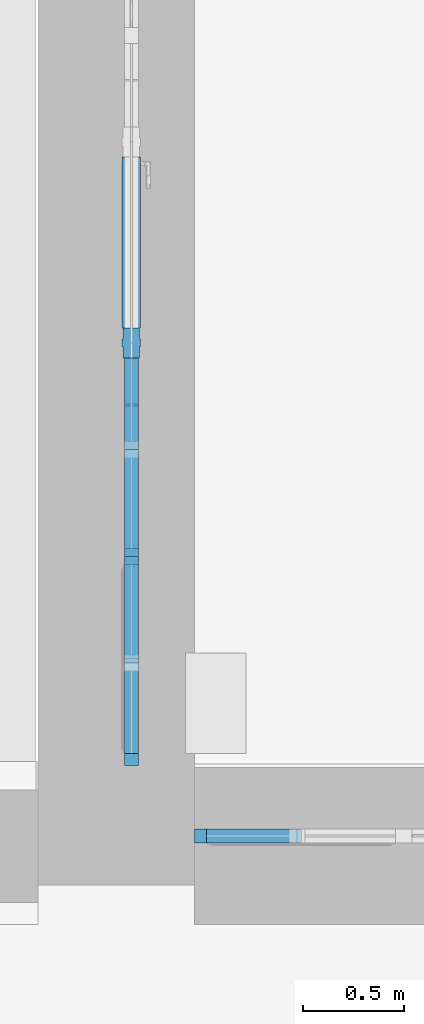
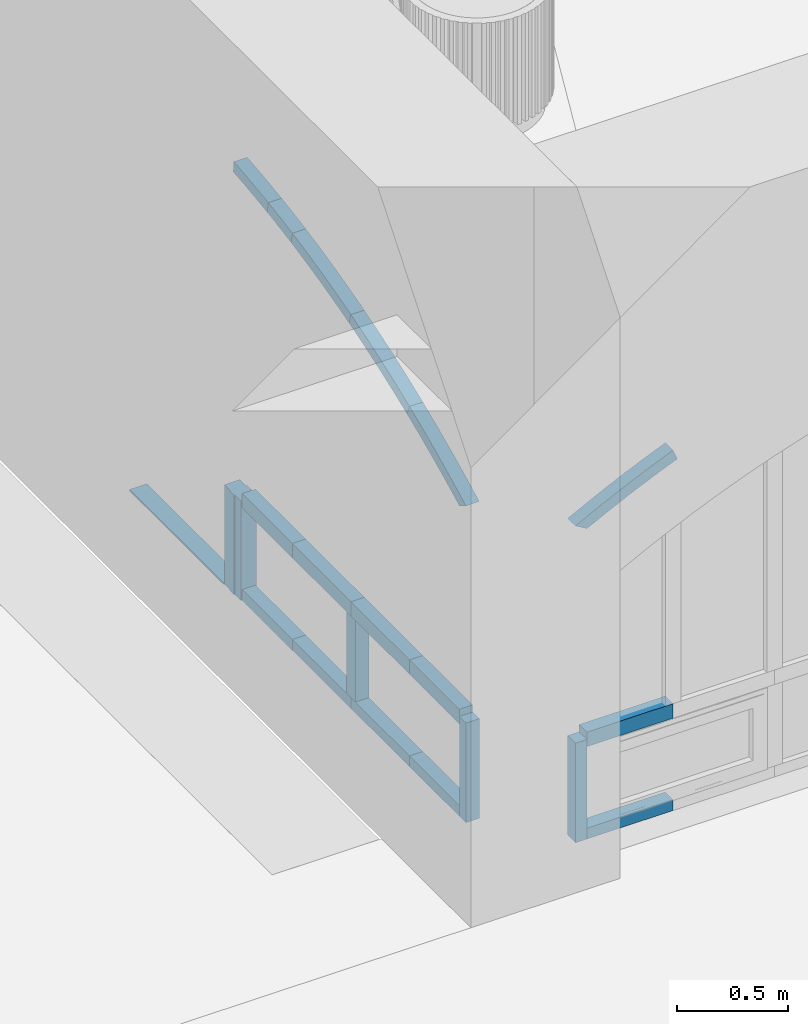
# One storey, part 16 of 88: 21 members, 2 elements without a shape of their own.
"""IFC2X3 building model written with IfcOpenShell, lengths in millimetres."""

from ifc_helpers import new_model, entity, si_unit, converted_unit, derived_unit, direction, frame, frame_2d, origin, place, context, subcontext, project, spatial, polyline, circle_curve, parameter, trimmed, segment, composite_curve, rectangle, outline, extrude, source, transform, mapped, material, type_object, type_shapes, element, aggregate, save


model = new_model("IFC2X3")

# Units and contexts
model_context = context("Model", 3, precision=0.01, world=origin(), true_north=direction((6.123031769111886e-17, 1.0)))
body_context = subcontext(model_context, "Body", "Model", "MODEL_VIEW")
ifc_project = project(units=[si_unit("LENGTHUNIT", "METRE", prefix="MILLI"), si_unit("AREAUNIT", "SQUARE_METRE"), si_unit("VOLUMEUNIT", "CUBIC_METRE"), converted_unit("PLANEANGLEUNIT", "DEGREE", entity("IfcPlaneAngleMeasure", 0.017453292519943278), si_unit("PLANEANGLEUNIT", "RADIAN"), dimensions=[0, 0, 0, 0, 0, 0, 0]), si_unit("MASSUNIT", "GRAM", prefix="KILO"), derived_unit("MASSDENSITYUNIT", [(si_unit("MASSUNIT", "GRAM", prefix="KILO"), 1), (si_unit("LENGTHUNIT", "METRE"), -3)]), derived_unit("IONCONCENTRATIONUNIT", [(si_unit("MASSUNIT", "GRAM", prefix="KILO"), 1), (si_unit("LENGTHUNIT", "METRE"), -3)]), derived_unit("MOMENTOFINERTIAUNIT", [(si_unit("LENGTHUNIT", "METRE"), 4)]), si_unit("TIMEUNIT", "SECOND"), si_unit("FREQUENCYUNIT", "HERTZ"), si_unit("THERMODYNAMICTEMPERATUREUNIT", "DEGREE_CELSIUS"), derived_unit("THERMALTRANSMITTANCEUNIT", [(si_unit("MASSUNIT", "GRAM", prefix="KILO"), 1), (si_unit("THERMODYNAMICTEMPERATUREUNIT", "KELVIN"), -1), (si_unit("TIMEUNIT", "SECOND"), -3)]), derived_unit("THERMALCONDUCTANCEUNIT", [(si_unit("MASSUNIT", "GRAM", prefix="KILO"), 1), (si_unit("THERMODYNAMICTEMPERATUREUNIT", "KELVIN"), -1), (si_unit("TIMEUNIT", "SECOND"), -3), (si_unit("LENGTHUNIT", "METRE"), 1)]), derived_unit("VOLUMETRICFLOWRATEUNIT", [(si_unit("LENGTHUNIT", "METRE", prefix="DECI"), 3), (si_unit("TIMEUNIT", "SECOND"), -1)]), derived_unit("MASSFLOWRATEUNIT", [(si_unit("MASSUNIT", "GRAM", prefix="KILO"), 1), (si_unit("TIMEUNIT", "SECOND"), -1)]), derived_unit("ROTATIONALFREQUENCYUNIT", [(si_unit("TIMEUNIT", "SECOND"), -1)]), si_unit("ELECTRICCURRENTUNIT", "AMPERE"), si_unit("ELECTRICVOLTAGEUNIT", "VOLT"), si_unit("POWERUNIT", "WATT"), si_unit("FORCEUNIT", "NEWTON", prefix="KILO"), si_unit("ILLUMINANCEUNIT", "LUX"), si_unit("LUMINOUSFLUXUNIT", "LUMEN"), si_unit("LUMINOUSINTENSITYUNIT", "CANDELA"), si_unit("ENERGYUNIT", "JOULE"), derived_unit("USERDEFINED", [(si_unit("MASSUNIT", "GRAM", prefix="KILO"), -1), (si_unit("LENGTHUNIT", "METRE"), -2), (si_unit("TIMEUNIT", "SECOND"), 3), (si_unit("LUMINOUSFLUXUNIT", "LUMEN"), 1)]), derived_unit("USERDEFINED", [(si_unit("MASSUNIT", "GRAM", prefix="KILO"), 1), (si_unit("TIMEUNIT", "SECOND"), -3), (si_unit("LENGTHUNIT", "METRE"), 3), (si_unit("ELECTRICCURRENTUNIT", "AMPERE"), -2)]), derived_unit("SOUNDPOWERUNIT", [(si_unit("MASSUNIT", "GRAM", prefix="KILO"), 1), (si_unit("TIMEUNIT", "SECOND"), -3), (si_unit("LENGTHUNIT", "METRE"), 2)]), derived_unit("SOUNDPRESSUREUNIT", [(si_unit("MASSUNIT", "GRAM", prefix="KILO"), 1), (si_unit("LENGTHUNIT", "METRE"), -1), (si_unit("TIMEUNIT", "SECOND"), -2)]), derived_unit("LINEARVELOCITYUNIT", [(si_unit("LENGTHUNIT", "METRE"), 1), (si_unit("TIMEUNIT", "SECOND"), -1)]), si_unit("PRESSUREUNIT", "PASCAL"), derived_unit("USERDEFINED", [(si_unit("MASSUNIT", "GRAM", prefix="KILO"), 1), (si_unit("LENGTHUNIT", "METRE"), -2), (si_unit("TIMEUNIT", "SECOND"), -2)]), derived_unit("LINEARFORCEUNIT", [(si_unit("MASSUNIT", "GRAM", prefix="KILO"), 1), (si_unit("TIMEUNIT", "SECOND"), -2)]), derived_unit("PLANARFORCEUNIT", [(si_unit("MASSUNIT", "GRAM", prefix="KILO"), 1), (si_unit("LENGTHUNIT", "METRE"), -1), (si_unit("TIMEUNIT", "SECOND"), -2)]), derived_unit("SPECIFICHEATCAPACITYUNIT", [(si_unit("THERMODYNAMICTEMPERATUREUNIT", "KELVIN"), -1), (si_unit("LENGTHUNIT", "METRE"), 2), (si_unit("TIMEUNIT", "SECOND"), -2)]), derived_unit("HEATFLUXDENSITYUNIT", [(si_unit("MASSUNIT", "GRAM", prefix="KILO"), 1), (si_unit("TIMEUNIT", "SECOND"), -3)]), derived_unit("HEATINGVALUEUNIT", [(si_unit("LENGTHUNIT", "METRE"), 2), (si_unit("TIMEUNIT", "SECOND"), -2)]), derived_unit("VAPORPERMEABILITYUNIT", [(si_unit("LENGTHUNIT", "METRE"), -1), (si_unit("TIMEUNIT", "SECOND"), 1)]), derived_unit("DYNAMICVISCOSITYUNIT", [(si_unit("MASSUNIT", "GRAM", prefix="KILO"), 1), (si_unit("TIMEUNIT", "SECOND"), -1), (si_unit("LENGTHUNIT", "METRE"), -1)]), derived_unit("THERMALEXPANSIONCOEFFICIENTUNIT", [(si_unit("THERMODYNAMICTEMPERATUREUNIT", "KELVIN"), -1)]), derived_unit("MODULUSOFELASTICITYUNIT", [(si_unit("MASSUNIT", "GRAM", prefix="KILO"), 1), (si_unit("LENGTHUNIT", "METRE"), -1), (si_unit("TIMEUNIT", "SECOND"), -2)]), derived_unit("ISOTHERMALMOISTURECAPACITYUNIT", [(si_unit("MASSUNIT", "GRAM", prefix="KILO"), -1), (si_unit("LENGTHUNIT", "METRE"), 3)]), derived_unit("MOISTUREDIFFUSIVITYUNIT", [(si_unit("TIMEUNIT", "SECOND"), -1), (si_unit("LENGTHUNIT", "METRE"), 2)]), derived_unit("MASSPERLENGTHUNIT", [(si_unit("MASSUNIT", "GRAM", prefix="KILO"), 1), (si_unit("LENGTHUNIT", "METRE"), -1)]), derived_unit("THERMALRESISTANCEUNIT", [(si_unit("MASSUNIT", "GRAM", prefix="KILO"), -1), (si_unit("TIMEUNIT", "SECOND"), 3), (si_unit("THERMODYNAMICTEMPERATUREUNIT", "KELVIN"), 1)]), derived_unit("ACCELERATIONUNIT", [(si_unit("LENGTHUNIT", "METRE"), 1), (si_unit("TIMEUNIT", "SECOND"), -2)]), derived_unit("ANGULARVELOCITYUNIT", [(si_unit("TIMEUNIT", "SECOND"), -1), (si_unit("PLANEANGLEUNIT", "RADIAN"), 1)]), derived_unit("LINEARSTIFFNESSUNIT", [(si_unit("MASSUNIT", "GRAM", prefix="KILO"), 1), (si_unit("TIMEUNIT", "SECOND"), -2)]), derived_unit("WARPINGCONSTANTUNIT", [(si_unit("LENGTHUNIT", "METRE"), 6)]), derived_unit("LINEARMOMENTUNIT", [(si_unit("MASSUNIT", "GRAM", prefix="KILO"), 1), (si_unit("LENGTHUNIT", "METRE"), 1), (si_unit("TIMEUNIT", "SECOND"), -2)]), derived_unit("TORQUEUNIT", [(si_unit("MASSUNIT", "GRAM", prefix="KILO"), 1), (si_unit("LENGTHUNIT", "METRE"), 2), (si_unit("TIMEUNIT", "SECOND"), -2)])], contexts=[model_context])

# Site, building, storey
site_placement = place(None, origin())
site = spatial("IfcSite", under=ifc_project, at=site_placement, Name="Default", CompositionType="ELEMENT")
building_placement = place(site_placement, origin())
building = spatial("IfcBuilding", under=site, at=building_placement, Name="Eesti Rahvusraamatukogu hoone renoveerimise projekteerimistööd", CompositionType="ELEMENT")
storey_placement = place(building_placement, origin())
storey = spatial("IfcBuildingStorey", under=building, at=storey_placement, Name="1. korrus", CompositionType="ELEMENT", Elevation=0.0)

# Curtain wall, members
curtain_wall_type = type_object("IfcCurtainWallType", Name="Curtain Wall:Ak-05", PredefinedType="NOTDEFINED")
curtain_wall_1_placement = place(storey_placement, origin())
curtain_wall_1 = element("IfcCurtainWall", 1, at=curtain_wall_1_placement, inside=storey, type_object=curtain_wall_type, Name="Curtain Wall:Ak-05", ObjectType="Curtain Wall:Ak-05")
ifc_material_1 = material(Name="LUMION_dark steel window frames")
member_type_1 = type_object("IfcMemberType", Name="Rectangular Mullion:NEW 60x70mm", PredefinedType="MULLION", material=ifc_material_1)
shared_shape_1 = source(origin(), body_context, "Body", "SweptSolid", [
    extrude(outline(composite_curve([segment(polyline([(-44.19959331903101, -278.92780712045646), (15.800406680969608, -278.9278071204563)]), True, "CONTINUOUS"), segment(trimmed(circle_curve(frame_2d((5479.080973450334, -278.9278071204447), x_axis=(-0.9948301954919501, 0.10155236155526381)), 5463.280566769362), [parameter(3.5622212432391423e-13)], [parameter(5.828569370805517)], True, "PARAMETER"), False, "CONTINUOUS"), segment(polyline([(44.04449918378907, 275.8812362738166), (-15.645312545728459, 281.97437796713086)]), True, "CONTINUOUS"), segment(trimmed(circle_curve(frame_2d((5479.080973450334, -278.9278071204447), x_axis=(-0.9948301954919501, 0.10155236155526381)), 5523.280566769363), [parameter(3.5622212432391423e-13)], [parameter(5.828569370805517)], True, "PARAMETER"), True, "CONTINUOUS")], self_intersect=False)), frame((-44.19959331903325, -35.0, -278.9278071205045), z_axis=(0.0, 1.0, 0.0), x_axis=(-0.9948301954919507, 0.0, 0.10155236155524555)), (0.0, 0.0, 1.0), 69.99999999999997),
])
type_shapes(member_type_1, [shared_shape_1])
member_1_placement = place(curtain_wall_1_placement, frame((-42905.0, 1300.0, 1939.3047106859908), z_axis=(0.0, -0.9256428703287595, -0.37839830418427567), x_axis=(0.0, -0.37839830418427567, 0.9256428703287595)))
member_1 = element("IfcMember", 2, at=member_1_placement, type_object=member_type_1, material=ifc_material_1, Name="Rectangular Mullion:NEW 60x70mm", ObjectType="Rectangular Mullion:NEW 60x70mm", context=body_context, shape_type="MappedRepresentation", body=[
    mapped(shared_shape_1, transform((0.0, 0.0, 0.0), scale=1.0)),
])
member_type_2 = type_object("IfcMemberType", Name="Rectangular Mullion:NEW 60x70mm", PredefinedType="MULLION", material=ifc_material_1)
shared_shape_2 = source(origin(), body_context, "Body", "SweptSolid", [
    extrude(outline(composite_curve([segment(polyline([(-43.38278695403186, -270.80676601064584), (16.61721304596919, -270.80676601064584)]), True, "CONTINUOUS"), segment(trimmed(circle_curve(frame_2d((5479.897779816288, -270.80676601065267), x_axis=(-0.9951275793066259, 0.09859564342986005)), 5463.280566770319), [parameter(3.5622212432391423e-13)], [parameter(5.658307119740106)], True, "PARAMETER"), False, "CONTINUOUS"), segment(polyline([(43.23661433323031, 267.8488967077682), (-16.471040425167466, 273.7646353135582)]), True, "CONTINUOUS"), segment(trimmed(circle_curve(frame_2d((5479.897779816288, -270.80676601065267), x_axis=(-0.9951275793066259, 0.09859564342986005)), 5523.280566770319), [parameter(3.5622212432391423e-13)], [parameter(5.658307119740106)], True, "PARAMETER"), True, "CONTINUOUS")], self_intersect=False)), frame((-43.382786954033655, -35.0, -270.8067660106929), z_axis=(0.0, 1.0, 0.0), x_axis=(-0.9951275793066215, 0.0, 0.09859564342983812)), (0.0, 0.0, 1.0), 69.99999999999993),
])
type_shapes(member_type_2, [shared_shape_2])
member_2_placement = place(curtain_wall_1_placement, frame((-42905.0, 1830.0, 2125.1180799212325), z_axis=(0.0, -0.9592847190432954, -0.2824408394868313), x_axis=(0.0, -0.2824408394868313, 0.9592847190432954)))
member_2 = element("IfcMember", 3, at=member_2_placement, type_object=member_type_2, material=ifc_material_1, Name="Rectangular Mullion:NEW 60x70mm", ObjectType="Rectangular Mullion:NEW 60x70mm", context=body_context, shape_type="MappedRepresentation", body=[
    mapped(shared_shape_2, transform((0.0, 0.0, 0.0), scale=1.0)),
])
member_type_3 = type_object("IfcMemberType", Name="Rectangular Mullion:NEW 60x70mm", PredefinedType="MULLION", material=ifc_material_1)
shared_shape_3 = source(origin(), body_context, "Body", "SweptSolid", [
    extrude(outline(composite_curve([segment(polyline([(-32.20246871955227, -109.97239538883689), (27.79753128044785, -109.97239538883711)]), True, "CONTINUOUS"), segment(trimmed(circle_curve(frame_2d((5491.078098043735, -109.97239538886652), x_axis=(-0.9991981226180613, 0.040038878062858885)), 5463.280566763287), [parameter(3.5622212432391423e-13)], [parameter(2.2946721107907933)], True, "PARAMETER"), False, "CONTINUOUS"), segment(polyline([(32.17841239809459, 108.77122904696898), (-27.7734749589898, 111.17356173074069)]), True, "CONTINUOUS"), segment(trimmed(circle_curve(frame_2d((5491.078098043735, -109.97239538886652), x_axis=(-0.9991981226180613, 0.040038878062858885)), 5523.280566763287), [parameter(3.5622212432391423e-13)], [parameter(2.2946721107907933)], True, "PARAMETER"), True, "CONTINUOUS")], self_intersect=False)), frame((-32.202468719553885, -35.0, -109.9723953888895), z_axis=(0.0, 1.0, 0.0), x_axis=(-0.9991981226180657, 0.0, 0.04003887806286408)), (0.0, 0.0, 1.0), 69.99999999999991),
])
type_shapes(member_type_3, [shared_shape_3])
member_3_placement = place(curtain_wall_1_placement, frame((-42905.0, 2360.0, 2253.111256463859), z_axis=(0.0, -0.9824581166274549, -0.18648337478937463), x_axis=(0.0, -0.18648337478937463, 0.9824581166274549)))
member_3 = element("IfcMember", 4, at=member_3_placement, type_object=member_type_3, material=ifc_material_1, Name="Rectangular Mullion:NEW 60x70mm", ObjectType="Rectangular Mullion:NEW 60x70mm", context=body_context, shape_type="MappedRepresentation", body=[
    mapped(shared_shape_3, transform((0.0, 0.0, 0.0), scale=1.0)),
])
member_type_4 = type_object("IfcMemberType", Name="Rectangular Mullion:NEW 60x70mm", PredefinedType="MULLION", material=ifc_material_1)
shared_shape_4 = source(origin(), body_context, "Body", "SweptSolid", [
    extrude(outline(composite_curve([segment(polyline([(-43.402905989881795, -270.8580815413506), (16.59709401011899, -270.85808154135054)]), True, "CONTINUOUS"), segment(trimmed(circle_curve(frame_2d((5479.877660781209, -270.8580815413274), x_axis=(-0.9947965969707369, 0.10188096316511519)), 5463.280566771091), [parameter(0.37822812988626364)], [parameter(5.847495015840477)], True, "PARAMETER"), False, "CONTINUOUS"), segment(polyline([(41.46886313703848, 249.85710065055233), (-14.66305115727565, 291.85906243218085)]), True, "CONTINUOUS"), segment(trimmed(circle_curve(frame_2d((5479.877660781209, -270.8580815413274), x_axis=(-0.9947965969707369, 0.10188096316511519)), 5523.280566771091), [parameter(3.5622212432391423e-13)], [parameter(5.847495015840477)], True, "PARAMETER"), True, "CONTINUOUS")], self_intersect=False)), frame((-44.32163578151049, -35.0, -288.84651632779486), z_axis=(0.0, 1.0, 0.0), x_axis=(-0.9947965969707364, 0.0, 0.10188096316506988)), (0.0, 0.0, 1.0), 69.99999999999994),
])
type_shapes(member_type_4, [shared_shape_4])
member_4_placement = place(curtain_wall_1_placement, frame((-42905.0, 790.0, 1699.7706559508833), z_axis=(0.0, -0.8822747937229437, -0.4707347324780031), x_axis=(0.0, -0.4707347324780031, 0.8822747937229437)))
member_4 = element("IfcMember", 5, at=member_4_placement, type_object=member_type_4, material=ifc_material_1, Name="Rectangular Mullion:NEW 60x70mm", ObjectType="Rectangular Mullion:NEW 60x70mm", context=body_context, shape_type="MappedRepresentation", body=[
    mapped(shared_shape_4, transform((0.0, 0.0, 0.0), scale=1.0)),
])
member_type_5 = type_object("IfcMemberType", Name="Rectangular Mullion:NEW 150x90mm", PredefinedType="MULLION", material=ifc_material_1)
shared_shape_5 = source(origin(), body_context, "Body", "SweptSolid", [
    extrude(outline(polyline([(40.0, -20.0), (45.0, -20.0), (45.0, 20.0), (40.0, 20.0), (40.0, 75.0), (-40.0, 75.0), (-40.0, 20.0), (-45.0, 20.0), (-45.0, -20.0), (-40.0, -20.0), (-40.0, -75.0), (40.0, -75.0), (40.0, -20.0)])), frame((0.0, 0.0, -550.0), z_axis=(0.0, 0.0, 1.0), x_axis=(0.0, -1.0, 0.0)), (0.0, 0.0, 1.0), 550.0000000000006),
])
type_shapes(member_type_5, [shared_shape_5])
member_5_placement = place(curtain_wall_1_placement, frame((-42905.0, 2890.0, -50.0), z_axis=(0.0, 0.0, -1.0), x_axis=(0.0, -1.0, 0.0)))
member_5 = element("IfcMember", 6, at=member_5_placement, type_object=member_type_5, material=ifc_material_1, Name="Rectangular Mullion:NEW 150x90mm", ObjectType="Rectangular Mullion:NEW 150x90mm", context=body_context, shape_type="MappedRepresentation", body=[
    mapped(shared_shape_5, transform((0.0, 0.0, 0.0), scale=1.0)),
])
member_type_6 = type_object("IfcMemberType", Name="Rectangular Mullion:NEW 80x70mm", PredefinedType="MULLION", material=ifc_material_1)
shared_shape_6 = source(origin(), body_context, "Body", "SweptSolid", [
    extrude(rectangle(XDim=80.0, YDim=70.0, at=frame_2d((0.0, -3.552713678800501e-15), x_axis=(1.0, 0.0))), frame((0.0, 0.0, -450.0), z_axis=(0.0, 0.0, 1.0), x_axis=(-1.0, 0.0, 0.0)), (0.0, 0.0, 1.0), 449.9999999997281),
])
type_shapes(member_type_6, [shared_shape_6])
member_6_placement = place(curtain_wall_1_placement, frame((-42905.0, 850.0, 500.0), z_axis=(0.0, -1.0, 0.0), x_axis=(0.0, 0.0, 1.0)))
member_6 = element("IfcMember", 7, at=member_6_placement, type_object=member_type_6, material=ifc_material_1, Name="Rectangular Mullion:NEW 80x70mm", ObjectType="Rectangular Mullion:NEW 80x70mm", context=body_context, shape_type="MappedRepresentation", body=[
    mapped(shared_shape_6, transform((0.0, 0.0, 0.0), scale=1.0)),
])
member_type_7 = type_object("IfcMemberType", Name="Rectangular Mullion:NEW 80x70mm", PredefinedType="MULLION", material=ifc_material_1)
shared_shape_7 = source(origin(), body_context, "Body", "SweptSolid", [
    extrude(rectangle(XDim=80.0, YDim=70.0, at=frame_2d((0.0, -3.552713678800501e-15), x_axis=(1.0, 0.0))), frame((0.0, 0.0, -530.0), z_axis=(0.0, 0.0, 1.0), x_axis=(-1.0, 0.0, 0.0)), (0.0, 0.0, 1.0), 530.0000000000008),
])
type_shapes(member_type_7, [shared_shape_7])
member_7_placement = place(curtain_wall_1_placement, frame((-42905.0, 1300.0, 500.0), z_axis=(0.0, -1.0, 0.0), x_axis=(0.0, 0.0, 1.0)))
member_7 = element("IfcMember", 8, at=member_7_placement, type_object=member_type_7, material=ifc_material_1, Name="Rectangular Mullion:NEW 80x70mm", ObjectType="Rectangular Mullion:NEW 80x70mm", context=body_context, shape_type="MappedRepresentation", body=[
    mapped(shared_shape_7, transform((0.0, 0.0, 0.0), scale=1.0)),
])
member_8_placement = place(curtain_wall_1_placement, frame((-42905.0, 1830.0, 500.0), z_axis=(0.0, -1.0, 0.0), x_axis=(0.0, 0.0, 1.0)))
member_8 = element("IfcMember", 9, at=member_8_placement, type_object=member_type_7, material=ifc_material_1, Name="Rectangular Mullion:NEW 80x70mm", ObjectType="Rectangular Mullion:NEW 80x70mm", context=body_context, shape_type="MappedRepresentation", body=[
    mapped(shared_shape_7, transform((0.0, 0.0, 0.0), scale=1.0)),
])
member_type_8 = type_object("IfcMemberType", Name="Rectangular Mullion:NEW 80x70mm", PredefinedType="MULLION", material=ifc_material_1)
shared_shape_8 = source(origin(), body_context, "Body", "SweptSolid", [
    extrude(rectangle(XDim=80.0, YDim=70.0, at=frame_2d((0.0, -3.552713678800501e-15), x_axis=(1.0, 0.0))), frame((0.0, 0.0, -455.0), z_axis=(0.0, 0.0, 1.0), x_axis=(-1.0, 0.0, 0.0)), (0.0, 0.0, 1.0), 455.0000000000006),
])
type_shapes(member_type_8, [shared_shape_8])
member_9_placement = place(curtain_wall_1_placement, frame((-42905.0, 2360.0, 500.0), z_axis=(0.0, -1.0, 0.0), x_axis=(0.0, 0.0, 1.0)))
member_9 = element("IfcMember", 10, at=member_9_placement, type_object=member_type_8, material=ifc_material_1, Name="Rectangular Mullion:NEW 80x70mm", ObjectType="Rectangular Mullion:NEW 80x70mm", context=body_context, shape_type="MappedRepresentation", body=[
    mapped(shared_shape_8, transform((0.0, 0.0, 0.0), scale=1.0)),
])
member_type_9 = type_object("IfcMemberType", Name="Rectangular Mullion:NEW 80x70mm", PredefinedType="MULLION", material=ifc_material_1)
shared_shape_9 = source(origin(), body_context, "Body", "SweptSolid", [
    extrude(rectangle(XDim=80.0, YDim=70.0, at=frame_2d((0.0, 3.552713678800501e-15), x_axis=(1.0, 0.0))), frame((0.0, 0.0, -450.0), z_axis=(0.0, 0.0, 1.0), x_axis=(-1.0, 0.0, 0.0)), (0.0, 0.0, 1.0), 450.00000000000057),
])
type_shapes(member_type_9, [shared_shape_9])
member_10_placement = place(curtain_wall_1_placement, frame((-42905.0, 1830.0, 10.0), z_axis=(0.0, 0.0, -1.0), x_axis=(0.0, -1.0, 0.0)))
member_10 = element("IfcMember", 11, at=member_10_placement, type_object=member_type_9, material=ifc_material_1, Name="Rectangular Mullion:NEW 80x70mm", ObjectType="Rectangular Mullion:NEW 80x70mm", context=body_context, shape_type="MappedRepresentation", body=[
    mapped(shared_shape_9, transform((0.0, 0.0, 0.0), scale=1.0)),
])
member_type_10 = type_object("IfcMemberType", Name="Rectangular Mullion:NEW 60x70mm", PredefinedType="MULLION", material=ifc_material_1)
shared_shape_10 = source(origin(), body_context, "Body", "SweptSolid", [
    extrude(rectangle(XDim=60.0, YDim=70.0, at=frame_2d((0.0, 3.552713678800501e-15), x_axis=(1.0, 0.0))), frame((-30.0, 0.0, -550.0), z_axis=(0.0, 0.0, 1.0), x_axis=(-1.0, 0.0, 0.0)), (0.0, 0.0, 1.0), 550.0000000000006),
])
type_shapes(member_type_10, [shared_shape_10])
member_11_placement = place(curtain_wall_1_placement, frame((-42905.0, 790.0, -50.0), z_axis=(0.0, 0.0, -1.0), x_axis=(0.0, -1.0, 0.0)))
member_11 = element("IfcMember", 12, at=member_11_placement, type_object=member_type_10, material=ifc_material_1, Name="Rectangular Mullion:NEW 60x70mm", ObjectType="Rectangular Mullion:NEW 60x70mm", context=body_context, shape_type="MappedRepresentation", body=[
    mapped(shared_shape_10, transform((0.0, 0.0, 0.0), scale=1.0)),
])
member_type_11 = type_object("IfcMemberType", Name="Rectangular Mullion:NEW 60x70mm", PredefinedType="MULLION", material=ifc_material_1)
shared_shape_11 = source(origin(), body_context, "Body", "SweptSolid", [
    extrude(rectangle(XDim=60.0, YDim=70.0, at=frame_2d((0.0, 3.552713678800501e-15), x_axis=(1.0, 0.0))), frame((-30.0, 0.0, -450.0), z_axis=(0.0, 0.0, 1.0), x_axis=(-1.0, 0.0, 0.0)), (0.0, 0.0, 1.0), 449.9999999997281),
])
type_shapes(member_type_11, [shared_shape_11])
member_12_placement = place(curtain_wall_1_placement, frame((-42905.0, 1300.0, -50.0), z_axis=(0.0, 1.0, 0.0), x_axis=(0.0, 0.0, -1.0)))
member_12 = element("IfcMember", 13, at=member_12_placement, type_object=member_type_11, material=ifc_material_1, Name="Rectangular Mullion:NEW 60x70mm", ObjectType="Rectangular Mullion:NEW 60x70mm", context=body_context, shape_type="MappedRepresentation", body=[
    mapped(shared_shape_11, transform((0.0, 0.0, 0.0), scale=1.0)),
])
member_type_12 = type_object("IfcMemberType", Name="Rectangular Mullion:NEW 60x70mm", PredefinedType="MULLION", material=ifc_material_1)
shared_shape_12 = source(origin(), body_context, "Body", "SweptSolid", [
    extrude(rectangle(XDim=60.0, YDim=70.0, at=frame_2d((0.0, 3.552713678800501e-15), x_axis=(1.0, 0.0))), frame((-30.0, 0.0, -530.0), z_axis=(0.0, 0.0, 1.0), x_axis=(-1.0, 0.0, 0.0)), (0.0, 0.0, 1.0), 530.0000000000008),
])
type_shapes(member_type_12, [shared_shape_12])
member_13_placement = place(curtain_wall_1_placement, frame((-42905.0, 1830.0, -50.0), z_axis=(0.0, 1.0, 0.0), x_axis=(0.0, 0.0, -1.0)))
member_13 = element("IfcMember", 14, at=member_13_placement, type_object=member_type_12, material=ifc_material_1, Name="Rectangular Mullion:NEW 60x70mm", ObjectType="Rectangular Mullion:NEW 60x70mm", context=body_context, shape_type="MappedRepresentation", body=[
    mapped(shared_shape_12, transform((0.0, 0.0, 0.0), scale=1.0)),
])
member_type_13 = type_object("IfcMemberType", Name="Rectangular Mullion:NEW 60x70mm", PredefinedType="MULLION", material=ifc_material_1)
shared_shape_13 = source(origin(), body_context, "Body", "SweptSolid", [
    extrude(rectangle(XDim=60.0, YDim=70.0, at=frame_2d((0.0, 3.552713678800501e-15), x_axis=(1.0, 0.0))), frame((-30.0, 0.0, -530.0), z_axis=(0.0, 0.0, 1.0), x_axis=(-1.0, 0.0, 0.0)), (0.0, 0.0, 1.0), 530.0000000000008),
])
type_shapes(member_type_13, [shared_shape_13])
member_14_placement = place(curtain_wall_1_placement, frame((-42905.0, 2360.0, -50.0), z_axis=(0.0, 1.0, 0.0), x_axis=(0.0, 0.0, -1.0)))
member_14 = element("IfcMember", 15, at=member_14_placement, type_object=member_type_13, material=ifc_material_1, Name="Rectangular Mullion:NEW 60x70mm", ObjectType="Rectangular Mullion:NEW 60x70mm", context=body_context, shape_type="MappedRepresentation", body=[
    mapped(shared_shape_13, transform((0.0, 0.0, 0.0), scale=1.0)),
])
member_type_14 = type_object("IfcMemberType", Name="Rectangular Mullion:NEW 60x70mm", PredefinedType="MULLION", material=ifc_material_1)
shared_shape_14 = source(origin(), body_context, "Body", "SweptSolid", [
    extrude(rectangle(XDim=60.0, YDim=70.0, at=frame_2d((0.0, 3.552713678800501e-15), x_axis=(1.0, 0.0))), frame((-30.0, 0.0, -455.0), z_axis=(0.0, 0.0, 1.0), x_axis=(-1.0, 0.0, 0.0)), (0.0, 0.0, 1.0), 455.0000000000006),
])
type_shapes(member_type_14, [shared_shape_14])
member_15_placement = place(curtain_wall_1_placement, frame((-42905.0, 2815.0, -50.0), z_axis=(0.0, 1.0, 0.0), x_axis=(0.0, 0.0, -1.0)))
member_15 = element("IfcMember", 16, at=member_15_placement, type_object=member_type_14, material=ifc_material_1, Name="Rectangular Mullion:NEW 60x70mm", ObjectType="Rectangular Mullion:NEW 60x70mm", context=body_context, shape_type="MappedRepresentation", body=[
    mapped(shared_shape_14, transform((0.0, 0.0, 0.0), scale=1.0)),
])
ifc_material_2 = material(Name="Lumion_aluminium")
member_type_15 = type_object("IfcMemberType", Name="Rectangular Mullion:NEW 10x90mm", PredefinedType="MULLION", material=ifc_material_2)
shared_shape_15 = source(origin(), body_context, "Body", "SweptSolid", [
    extrude(rectangle(XDim=10.0, YDim=90.0, at=frame_2d((0.0, 3.552713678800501e-15), x_axis=(1.0, 0.0))), frame((-5.0, 0.0, -850.0), z_axis=(0.0, 0.0, 1.0), x_axis=(-1.0, 0.0, 0.0)), (0.0, 0.0, 1.0), 849.9999999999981),
])
type_shapes(member_type_15, [shared_shape_15])
member_16_placement = place(curtain_wall_1_placement, frame((-42905.0, 3815.0, -50.0), z_axis=(0.0, 1.0, 0.0), x_axis=(0.0, 0.0, -1.0)))
member_16 = element("IfcMember", 17, at=member_16_placement, type_object=member_type_15, material=ifc_material_2, Name="Rectangular Mullion:NEW 10x90mm", ObjectType="Rectangular Mullion:NEW 10x90mm", context=body_context, shape_type="MappedRepresentation", body=[
    mapped(shared_shape_15, transform((0.0, 0.0, 0.0), scale=1.0)),
])
member_type_16 = type_object("IfcMemberType", Name="Rectangular Mullion:NEW 60x70mm", PredefinedType="MULLION", material=ifc_material_1)
shared_shape_16 = source(origin(), body_context, "Body", "SweptSolid", [
    extrude(outline(composite_curve([segment(polyline([(-34.44225079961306, -156.14991642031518), (25.55774920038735, -156.14991642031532)]), True, "CONTINUOUS"), segment(trimmed(circle_curve(frame_2d((5488.838315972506, -156.14991642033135), x_axis=(-0.9983826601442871, 0.05685124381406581)), 5463.2805667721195), [parameter(3.5622212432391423e-13)], [parameter(3.2590935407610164)], True, "PARAMETER"), False, "CONTINUOUS"), segment(polyline([(34.393730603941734, 154.44437910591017), (-25.509229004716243, 157.8554537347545)]), True, "CONTINUOUS"), segment(trimmed(circle_curve(frame_2d((5488.838315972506, -156.14991642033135), x_axis=(-0.9983826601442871, 0.05685124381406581)), 5523.2805667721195), [parameter(3.5622212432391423e-13)], [parameter(3.2590935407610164)], True, "PARAMETER"), True, "CONTINUOUS")], self_intersect=False)), frame((-34.44225079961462, -35.0, -156.14991642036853), z_axis=(0.0, 1.0, 0.0), x_axis=(-0.9983826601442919, 0.0, 0.056851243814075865)), (0.0, 0.0, 1.0), 69.99999999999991),
])
type_shapes(member_type_16, [shared_shape_16])
member_17_placement = place(curtain_wall_1_placement, frame((-42905.0, 2578.0925742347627, 2290.0), z_axis=(0.0, -0.9891368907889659, -0.14699731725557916), x_axis=(0.0, -0.14699731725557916, 0.9891368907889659)))
member_17 = element("IfcMember", 18, at=member_17_placement, type_object=member_type_16, material=ifc_material_1, Name="Rectangular Mullion:NEW 60x70mm", ObjectType="Rectangular Mullion:NEW 60x70mm", context=body_context, shape_type="MappedRepresentation", body=[
    mapped(shared_shape_16, transform((0.0, 0.0, 0.0), scale=1.0)),
])
aggregate(curtain_wall_1, [member_1, member_2, member_3, member_4, member_5, member_6, member_7, member_8, member_9, member_10, member_11, member_12, member_13, member_14, member_15, member_16, member_17])

curtain_wall_2_placement = place(storey_placement, origin())
curtain_wall_2 = element("IfcCurtainWall", 19, at=curtain_wall_2_placement, inside=storey, type_object=curtain_wall_type, Name="Curtain Wall:Ak-05", ObjectType="Curtain Wall:Ak-05")
member_type_17 = type_object("IfcMemberType", Name="Rectangular Mullion:NEW 60x70mm", PredefinedType="MULLION", material=ifc_material_1)
shared_shape_17 = source(origin(), body_context, "Body", "SweptSolid", [
    extrude(outline(composite_curve([segment(polyline([(-43.40290598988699, -270.8580815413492), (16.59709401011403, -270.85808154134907)]), True, "CONTINUOUS"), segment(trimmed(circle_curve(frame_2d((5479.87766077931, -270.8580815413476), x_axis=(-0.9947965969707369, 0.10188096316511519)), 5463.2805667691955), [parameter(0.37822812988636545)], [parameter(5.847495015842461)], True, "PARAMETER"), False, "CONTINUOUS"), segment(polyline([(41.468863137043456, 249.85710065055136), (-14.663051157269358, 291.85906243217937)]), True, "CONTINUOUS"), segment(trimmed(circle_curve(frame_2d((5479.87766077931, -270.8580815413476), x_axis=(-0.9947965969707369, 0.10188096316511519)), 5523.280566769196), [parameter(3.5622212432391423e-13)], [parameter(5.847495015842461)], True, "PARAMETER"), True, "CONTINUOUS")], self_intersect=False)), frame((-44.32163578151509, -35.0, -288.8465163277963), z_axis=(0.0, 1.0, 0.0), x_axis=(-0.9947965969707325, 0.0, 0.10188096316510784)), (0.0, 0.0, 1.0), 69.99999999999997),
])
type_shapes(member_type_17, [shared_shape_17])
member_18_placement = place(curtain_wall_2_placement, frame((-42590.0, 440.0, 1699.7706559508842), z_axis=(-0.8822747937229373, 0.0, -0.47073473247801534), x_axis=(-0.47073473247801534, 0.0, 0.8822747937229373)))
member_18 = element("IfcMember", 20, at=member_18_placement, type_object=member_type_17, material=ifc_material_1, Name="Rectangular Mullion:NEW 60x70mm", ObjectType="Rectangular Mullion:NEW 60x70mm", context=body_context, shape_type="MappedRepresentation", body=[
    mapped(shared_shape_17, transform((0.0, 0.0, 0.0), scale=1.0)),
])
member_type_18 = type_object("IfcMemberType", Name="Rectangular Mullion:NEW 80x70mm", PredefinedType="MULLION", material=ifc_material_1)
shared_shape_18 = source(origin(), body_context, "Body", "SweptSolid", [
    extrude(rectangle(XDim=80.0, YDim=70.0, at=frame_2d((0.0, -3.552713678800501e-15), x_axis=(1.0, 0.0))), frame((0.0, 0.0, -450.0), z_axis=(0.0, 0.0, 1.0), x_axis=(-1.0, 0.0, 0.0)), (0.0, 0.0, 1.0), 449.9999999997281),
])
type_shapes(member_type_18, [shared_shape_18])
member_19_placement = place(curtain_wall_2_placement, frame((-42530.0, 440.0, 500.0), z_axis=(-1.0, 0.0, 0.0), x_axis=(0.0, 0.0, 1.0)))
member_19 = element("IfcMember", 21, at=member_19_placement, type_object=member_type_18, material=ifc_material_1, Name="Rectangular Mullion:NEW 80x70mm", ObjectType="Rectangular Mullion:NEW 80x70mm", context=body_context, shape_type="MappedRepresentation", body=[
    mapped(shared_shape_18, transform((0.0, 0.0, 0.0), scale=1.0)),
])
member_type_19 = type_object("IfcMemberType", Name="Rectangular Mullion:NEW 60x70mm", PredefinedType="MULLION", material=ifc_material_1)
shared_shape_19 = source(origin(), body_context, "Body", "SweptSolid", [
    extrude(rectangle(XDim=60.0, YDim=70.0, at=frame_2d((0.0, 3.552713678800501e-15), x_axis=(1.0, 0.0))), frame((-30.0, 0.0, -550.0), z_axis=(0.0, 0.0, 1.0), x_axis=(-1.0, 0.0, 0.0)), (0.0, 0.0, 1.0), 550.0000000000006),
])
type_shapes(member_type_19, [shared_shape_19])
member_20_placement = place(curtain_wall_2_placement, frame((-42590.0, 440.0, -50.0), z_axis=(0.0, 0.0, -1.0), x_axis=(-1.0, 0.0, 0.0)))
member_20 = element("IfcMember", 22, at=member_20_placement, type_object=member_type_19, material=ifc_material_1, Name="Rectangular Mullion:NEW 60x70mm", ObjectType="Rectangular Mullion:NEW 60x70mm", context=body_context, shape_type="MappedRepresentation", body=[
    mapped(shared_shape_19, transform((0.0, 0.0, 0.0), scale=1.0)),
])
member_type_20 = type_object("IfcMemberType", Name="Rectangular Mullion:NEW 60x70mm", PredefinedType="MULLION", material=ifc_material_1)
shared_shape_20 = source(origin(), body_context, "Body", "SweptSolid", [
    extrude(rectangle(XDim=60.0, YDim=70.0, at=frame_2d((0.0, 3.552713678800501e-15), x_axis=(1.0, 0.0))), frame((-30.0, 0.0, -450.0), z_axis=(0.0, 0.0, 1.0), x_axis=(-1.0, 0.0, 0.0)), (0.0, 0.0, 1.0), 449.9999999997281),
])
type_shapes(member_type_20, [shared_shape_20])
member_21_placement = place(curtain_wall_2_placement, frame((-42080.0, 440.0, -50.0), z_axis=(1.0, 0.0, 0.0), x_axis=(0.0, 0.0, -1.0)))
member_21 = element("IfcMember", 23, at=member_21_placement, type_object=member_type_20, material=ifc_material_1, Name="Rectangular Mullion:NEW 60x70mm", ObjectType="Rectangular Mullion:NEW 60x70mm", context=body_context, shape_type="MappedRepresentation", body=[
    mapped(shared_shape_20, transform((0.0, 0.0, 0.0), scale=1.0)),
])
aggregate(curtain_wall_2, [member_18, member_19, member_20, member_21])

save(model, "model.ifc")
